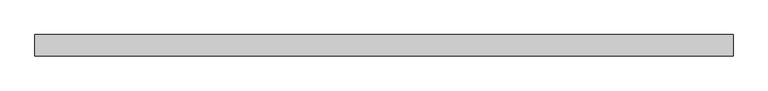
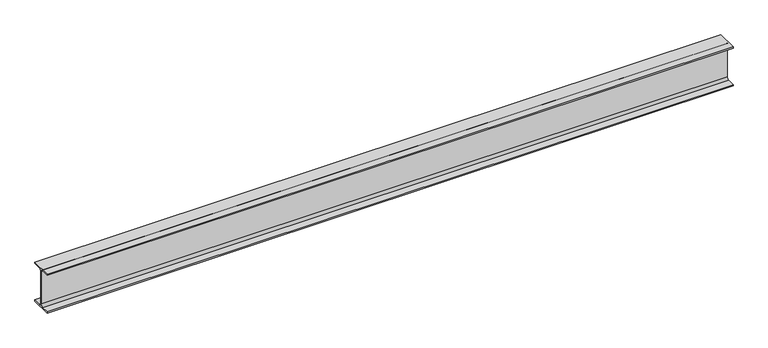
"""IFC4 building model written with IfcOpenShell, lengths in millimetres: beam geometry, 15_Балки_Окончание КМ : Семейство9."""

from ifc_helpers import new_model, si_unit, point, frame, frame_2d, origin, place, context, project, spatial, polyline, circle_curve, trimmed, segment, composite_curve, outline, extrude, source, transform, mapped, element, save


def beam_fb663292(model_context):
    return source(origin(), model_context, "Body", "SweptSolid", [
        extrude(outline(composite_curve([segment(polyline([(49.5, -91.4), (49.5, -97.0), (-49.5, -97.0), (-49.5, -91.4), (-13.25, -91.4)]), True, "CONTINUOUS"), segment(trimmed(circle_curve(frame_2d((-13.25, -80.4)), 11.0), [point((-13.25, -91.4))], [point((-2.25, -80.4))], True, "CARTESIAN"), True, "CONTINUOUS"), segment(polyline([(-2.25, -80.4), (-2.25, 80.4)]), True, "CONTINUOUS"), segment(trimmed(circle_curve(frame_2d((-13.25, 80.4)), 11.0), [point((-2.25, 80.4))], [point((-13.25, 91.4))], True, "CARTESIAN"), True, "CONTINUOUS"), segment(polyline([(-13.25, 91.4), (-49.5, 91.4), (-49.5, 97.0), (49.5, 97.0), (49.5, 91.4), (13.25, 91.4)]), True, "CONTINUOUS"), segment(trimmed(circle_curve(frame_2d((13.25, 80.4)), 11.0), [point((13.25, 91.4))], [point((2.25, 80.4))], True, "CARTESIAN"), True, "CONTINUOUS"), segment(polyline([(2.25, 80.4), (2.25, -80.4)]), True, "CONTINUOUS"), segment(trimmed(circle_curve(frame_2d((13.25, -80.4)), 11.0), [point((2.25, -80.4))], [point((13.25, -91.4))], True, "CARTESIAN"), True, "CONTINUOUS"), segment(polyline([(13.25, -91.4), (49.5, -91.4)]), True, "CONTINUOUS")], self_intersect=False)), frame((-1617.5, 0.0, 0.0), z_axis=(1.0, 0.0, 0.0), x_axis=(0.0, 1.0, 0.0)), (0.0, 0.0, 1.0), 3235.0),
    ])


if __name__ == "__main__":
    model = new_model("IFC4")
    model_context = context("Model", 3, world=origin())
    ifc_project = project(units=[si_unit("LENGTHUNIT", "METRE", prefix="MILLI")], contexts=[model_context])
    site = spatial("IfcSite", under=ifc_project)
    building = spatial("IfcBuilding", under=site)
    placement = place(None, origin())
    beam_shape = beam_fb663292(model_context)
    element("IfcBeam", 1, ObjectType="15_Балки_Окончание КМ : Семейство9", at=placement, inside=building, context=model_context, shape_type="MappedRepresentation", body=[
        mapped(beam_shape, transform((0.0, 0.0, 0.0), x_axis=(1.0, 0.0, 0.0), y_axis=(0.0, 1.0, 0.0), z_axis=(0.0, 0.0, 1.0))),
    ])
    save(model, "model.ifc")
